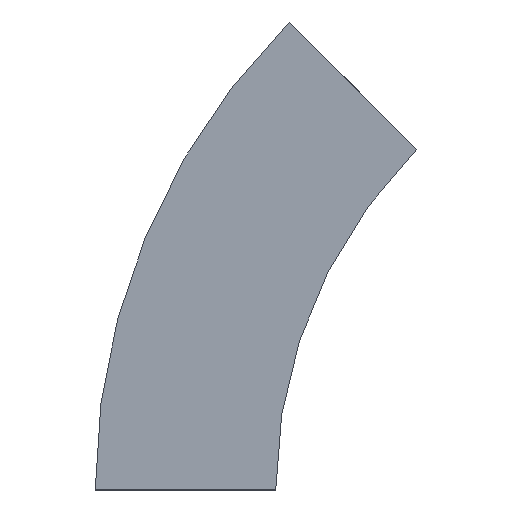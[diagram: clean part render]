
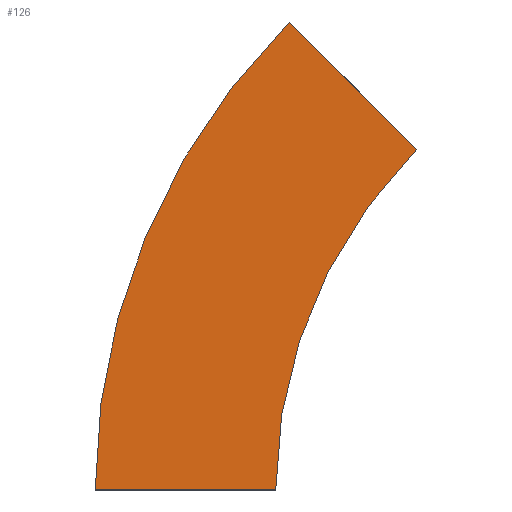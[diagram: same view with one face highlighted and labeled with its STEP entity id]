
A CAD part, left-side view. The second image highlights one B-rep face of the part: STEP entity #126.
In plain terms, the highlighted planar face has unit normal (-1, 0, 0) as drawn and (1, 0, 0) by its records, which use the part's own axes.
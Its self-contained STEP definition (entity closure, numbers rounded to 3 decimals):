
#63 = DIRECTION ( 'NONE',  ( 0., 1., 0. ) ) ;
#67 = CARTESIAN_POINT ( 'NONE',  ( 0., 0., 0. ) ) ;
#70 = CARTESIAN_POINT ( 'NONE',  ( 0., -300., 0. ) ) ;
#115 = VECTOR ( 'NONE', #146, 1000. ) ;
#119 = VERTEX_POINT ( 'NONE', #409 ) ;
#126 = ADVANCED_FACE ( 'NONE', ( #149 ), #330, .T. ) ;
#143 = DIRECTION ( 'NONE',  ( 0., 0., -1. ) ) ;
#146 = DIRECTION ( 'NONE',  ( 0., 1., 0. ) ) ;
#149 = FACE_OUTER_BOUND ( 'NONE', #221, .T. ) ;
#151 = EDGE_CURVE ( 'NONE', #217, #119, #293, .T. ) ;
#160 = DIRECTION ( 'NONE',  ( 1., 0., 0. ) ) ;
#196 = CARTESIAN_POINT ( 'NONE',  ( 0., -87.868, 212.132 ) ) ;
#197 = AXIS2_PLACEMENT_3D ( 'NONE', #70, #160, #543 ) ;
#204 = ORIENTED_EDGE ( 'NONE', *, *, #151, .F. ) ;
#206 = CARTESIAN_POINT ( 'NONE',  ( 0., -87.868, 212.132 ) ) ;
#217 = VERTEX_POINT ( 'NONE', #196 ) ;
#221 = EDGE_LOOP ( 'NONE', ( #354, #204, #304, #225 ) ) ;
#225 = ORIENTED_EDGE ( 'NONE', *, *, #397, .T. ) ;
#229 = EDGE_CURVE ( 'NONE', #528, #119, #290, .T. ) ;
#230 = AXIS2_PLACEMENT_3D ( 'NONE', #329, #502, #63 ) ;
#290 = CIRCLE ( 'NONE', #230, 412.5 ) ;
#293 = LINE ( 'NONE', #206, #489 ) ;
#295 = EDGE_CURVE ( 'NONE', #435, #217, #436, .T. ) ;
#304 = ORIENTED_EDGE ( 'NONE', *, *, #295, .F. ) ;
#308 = AXIS2_PLACEMENT_3D ( 'NONE', #553, #503, #143 ) ;
#329 = CARTESIAN_POINT ( 'NONE',  ( 0., -300., 0. ) ) ;
#330 = PLANE ( 'NONE',  #308 ) ;
#334 = LINE ( 'NONE', #418, #115 ) ;
#354 = ORIENTED_EDGE ( 'NONE', *, *, #229, .T. ) ;
#397 = EDGE_CURVE ( 'NONE', #435, #528, #334, .T. ) ;
#409 = CARTESIAN_POINT ( 'NONE',  ( 0., -8.318, 291.682 ) ) ;
#418 = CARTESIAN_POINT ( 'NONE',  ( 0., 0., 0. ) ) ;
#435 = VERTEX_POINT ( 'NONE', #67 ) ;
#436 = CIRCLE ( 'NONE', #197, 300. ) ;
#489 = VECTOR ( 'NONE', #563, 1000. ) ;
#502 = DIRECTION ( 'NONE',  ( 1., 0., 0. ) ) ;
#503 = DIRECTION ( 'NONE',  ( 1., 0., 0. ) ) ;
#515 = CARTESIAN_POINT ( 'NONE',  ( 0., 112.5, 0. ) ) ;
#528 = VERTEX_POINT ( 'NONE', #515 ) ;
#543 = DIRECTION ( 'NONE',  ( 0., 1., 0. ) ) ;
#553 = CARTESIAN_POINT ( 'NONE',  ( 0., 0., 0. ) ) ;
#563 = DIRECTION ( 'NONE',  ( 0., 0.707, 0.707 ) ) ;
